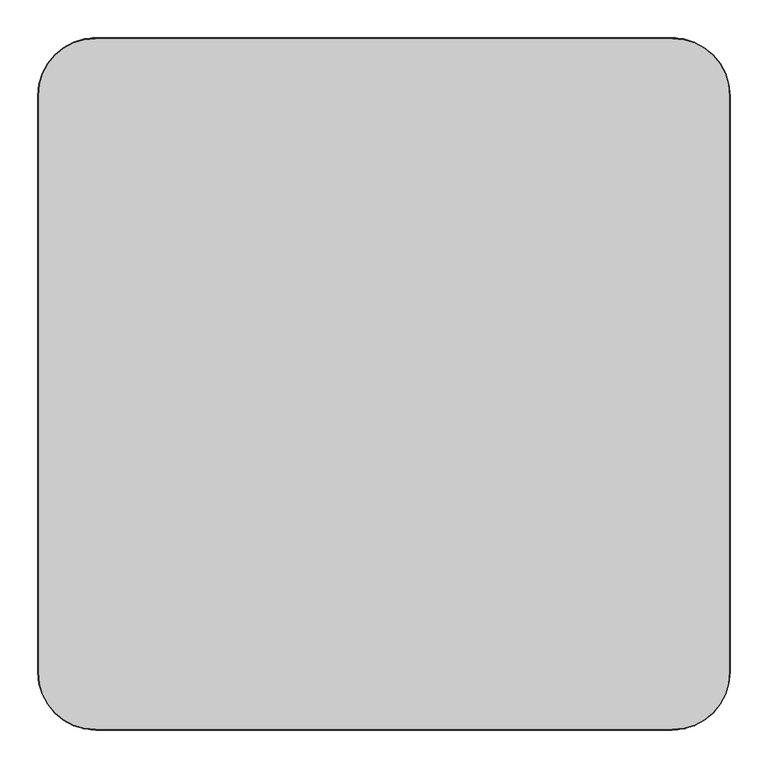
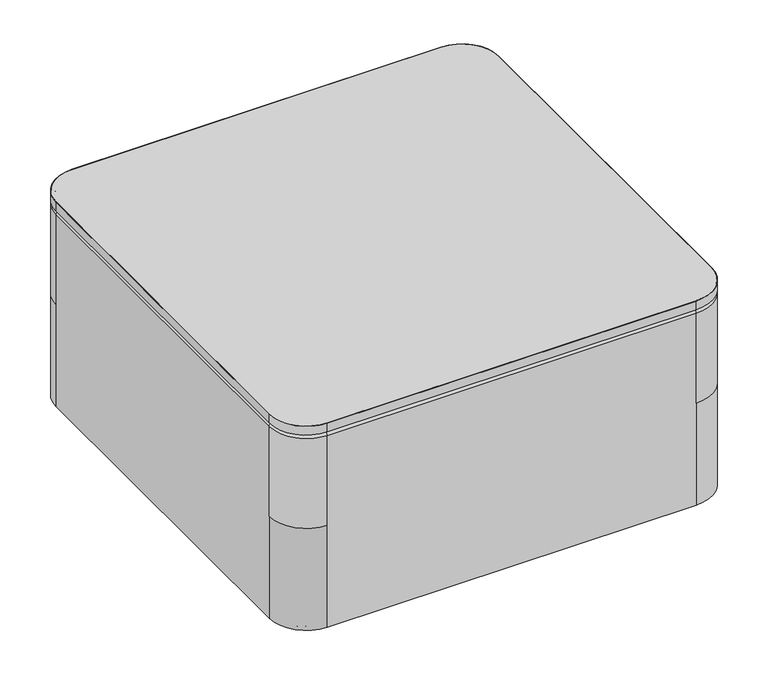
"""IFC4 building model written with IfcOpenShell, lengths in millimetres: furniture geometry, Indiana-Otty-Ottoman_Square_Table : 840-3618SOT."""

from ifc_helpers import new_model, si_unit, point, frame, frame_2d, origin, place, context, project, spatial, polyline, circle_curve, ellipse_curve, trimmed, segment, composite_curve, outline, extrude, source, transform, mapped, element, save
from ifc_brep_helpers import plane_surface, cylinder_surface, revolved_surface, advanced_brep


def furniture_90adf163(model_context):
    return source(origin(), model_context, "Body", "SolidModel", [
        extrude(outline(composite_curve([segment(trimmed(circle_curve(frame_2d((381.0, 381.0)), 75.2078125), [point((381.0, 456.2078125))], [point((456.2078125, 381.0))], False, "CARTESIAN"), True, "CONTINUOUS"), segment(polyline([(456.2078125, 381.0), (456.2078125, -381.0)]), True, "CONTINUOUS"), segment(trimmed(circle_curve(frame_2d((381.0, -381.0)), 75.2078125), [point((456.2078125, -381.0))], [point((381.0, -456.2078125))], False, "CARTESIAN"), True, "CONTINUOUS"), segment(polyline([(381.0, -456.2078125), (-381.0, -456.2078125)]), True, "CONTINUOUS"), segment(trimmed(circle_curve(frame_2d((-381.0, -381.0)), 75.2078125), [point((-381.0, -456.2078125))], [point((-456.2078125, -381.0))], False, "CARTESIAN"), True, "CONTINUOUS"), segment(polyline([(-456.2078125, -381.0), (-456.2078125, 381.0)]), True, "CONTINUOUS"), segment(trimmed(circle_curve(frame_2d((-381.0, 381.0)), 75.2078125), [point((-456.2078125, 381.0))], [point((-381.0, 456.2078125))], False, "CARTESIAN"), True, "CONTINUOUS"), segment(polyline([(-381.0, 456.2078125), (381.0, 456.2078125)]), True, "CONTINUOUS")], self_intersect=False)), frame((0.0, 0.0, 438.15), z_axis=(0.0, 0.0, 1.0), x_axis=(1.0, 0.0, 0.0)), (0.0, 0.0, 1.0), 19.05),
        extrude(outline(composite_curve([segment(polyline([(-457.2, -381.0), (-457.2, 381.0)]), True, "CONTINUOUS"), segment(trimmed(circle_curve(frame_2d((-381.0, 381.0)), 76.2), [point((-457.2, 381.0))], [point((-381.0, 457.2))], False, "CARTESIAN"), True, "CONTINUOUS"), segment(polyline([(-381.0, 457.2), (381.0, 457.2)]), True, "CONTINUOUS"), segment(trimmed(circle_curve(frame_2d((381.0, 381.0)), 76.2), [point((381.0, 457.2))], [point((457.2, 381.0))], False, "CARTESIAN"), True, "CONTINUOUS"), segment(polyline([(457.2, 381.0), (457.2, -381.0)]), True, "CONTINUOUS"), segment(trimmed(circle_curve(frame_2d((381.0, -381.0)), 76.2), [point((457.2, -381.0))], [point((381.0, -457.2))], False, "CARTESIAN"), True, "CONTINUOUS"), segment(polyline([(381.0, -457.2), (-381.0, -457.2)]), True, "CONTINUOUS"), segment(trimmed(circle_curve(frame_2d((-381.0, -381.0)), 76.2), [point((-381.0, -457.2))], [point((-457.2, -381.0))], False, "CARTESIAN"), True, "CONTINUOUS")], self_intersect=False), holes=[composite_curve([segment(polyline([(381.0, 456.2078125), (-381.0, 456.2078125)]), True, "CONTINUOUS"), segment(trimmed(circle_curve(frame_2d((-381.0, 381.0)), 75.2078125), [point((-381.0, 456.2078125))], [point((-456.2078125, 381.0))], True, "CARTESIAN"), True, "CONTINUOUS"), segment(polyline([(-456.2078125, 381.0), (-456.2078125, -381.0)]), True, "CONTINUOUS"), segment(trimmed(circle_curve(frame_2d((-381.0, -381.0)), 75.2078125), [point((-456.2078125, -381.0))], [point((-381.0, -456.2078125))], True, "CARTESIAN"), True, "CONTINUOUS"), segment(polyline([(-381.0, -456.2078125), (381.0, -456.2078125)]), True, "CONTINUOUS"), segment(trimmed(circle_curve(frame_2d((381.0, -381.0)), 75.2078125), [point((381.0, -456.2078125))], [point((456.2078125, -381.0))], True, "CARTESIAN"), True, "CONTINUOUS"), segment(polyline([(456.2078125, -381.0), (456.2078125, 381.0)]), True, "CONTINUOUS"), segment(trimmed(circle_curve(frame_2d((381.0, 381.0)), 75.2078125), [point((456.2078125, 381.0))], [point((381.0, 456.2078125))], True, "CARTESIAN"), True, "CONTINUOUS")], self_intersect=False)]), frame((0.0, 0.0, 438.15), z_axis=(0.0, 0.0, 1.0), x_axis=(1.0, 0.0, 0.0)), (0.0, 0.0, 1.0), 19.05),
        advanced_brep(
        [(0.0, -403.225, 19.8875), (0.0, -425.725, 19.8875), (0.0, -380.725, 19.8875), (0.0, -425.2765082, 4.2458827), (0.0, -381.1734918, 4.2458827), (0.0, -420.7913665, -0.1125), (0.0, -385.6586335, -0.1125), (0.0, -413.4926178, -0.1125), (0.0, -392.9573822, -0.1125), (0.0, -409.5981417, 3.9179615), (0.0, -396.8518583, 3.9179615), (0.0, -403.225, 3.9179615)],
        [
            (0, 1),
            (1, 2, circle_curve(frame((0.0, -403.225, 19.8875), z_axis=(0.0, 0.0, 1.0), x_axis=(0.0, -1.0, 0.0)), 22.5)),
            (2, 0),
            (2, 1, circle_curve(frame((0.0, -403.225, 19.8875), z_axis=(0.0, 0.0, 1.0), x_axis=(0.0, -1.0, 0.0)), 22.5)),
            (1, 3),
            (3, 4, circle_curve(frame((0.0, -403.225, 4.2458827), z_axis=(0.0, 0.0, 1.0), x_axis=(0.0, -1.0, 0.0)), 22.0515082)),
            (4, 2),
            (4, 3, circle_curve(frame((0.0, -403.225, 4.2458827), z_axis=(0.0, 0.0, 1.0), x_axis=(0.0, -1.0, 0.0)), 22.0515082)),
            (3, 5, circle_curve(frame((0.0, -420.7913665, 4.3744851), z_axis=(1.0, 0.0, 0.0), x_axis=(0.0, 1.0, 0.0)), 4.4869851)),
            (5, 6, circle_curve(frame((0.0, -403.225, -0.1125), z_axis=(0.0, 0.0, 1.0), x_axis=(0.0, -1.0, 0.0)), 17.5663665)),
            (6, 4, circle_curve(frame((0.0, -385.6586335, 4.3744851), z_axis=(1.0, 0.0, 0.0), x_axis=(0.0, -1.0, 0.0)), 4.4869851)),
            (6, 5, circle_curve(frame((0.0, -403.225, -0.1125), z_axis=(0.0, 0.0, 1.0), x_axis=(0.0, -1.0, 0.0)), 17.5663665)),
            (5, 7),
            (7, 8, circle_curve(frame((0.0, -403.225, -0.1125), z_axis=(0.0, 0.0, 1.0), x_axis=(0.0, -1.0, 0.0)), 10.2676178)),
            (8, 6),
            (8, 7, circle_curve(frame((0.0, -403.225, -0.1125), z_axis=(0.0, 0.0, 1.0), x_axis=(0.0, -1.0, 0.0)), 10.2676178)),
            (7, 9, circle_curve(frame((0.0, -413.4926178, 3.7842702), z_axis=(1.0, 0.0, 0.0), x_axis=(0.0, 1.0, 0.0)), 3.8967702)),
            (9, 10, circle_curve(frame((0.0, -403.225, 3.9179615), z_axis=(0.0, 0.0, 1.0), x_axis=(0.0, -1.0, 0.0)), 6.3731417)),
            (10, 8, circle_curve(frame((0.0, -392.9573822, 3.7842702), z_axis=(1.0, 0.0, 0.0), x_axis=(0.0, -1.0, 0.0)), 3.8967702)),
            (10, 9, circle_curve(frame((0.0, -403.225, 3.9179615), z_axis=(0.0, 0.0, 1.0), x_axis=(0.0, -1.0, 0.0)), 6.3731417)),
            (9, 11),
            (11, 10),
        ],
        [
            plane_surface(frame((0.0, -403.225, 19.8875), z_axis=(0.0, 0.0, 1.0), x_axis=(0.0, -1.0, 0.0))),
            revolved_surface(polyline([(0.0, -425.2765082, 4.2458827), (0.0, -425.725, 19.8875)]), (0.0, -403.225, 31.0803862), (0.0, 0.0, 1.0)),
            revolved_surface(trimmed(ellipse_curve(frame((0.0, -420.7913665, 4.3744851), z_axis=(-1.0, 0.0, 0.0), x_axis=(0.0, 1.0, 0.0)), 4.4869851, 4.4869851), [point((0.0, -420.7913665, -0.1125))], [point((0.0, -425.2765082, 4.2458827))], True, "CARTESIAN"), (0.0, -403.225, 31.0803862), (0.0, 0.0, 1.0)),
            plane_surface(frame((0.0, -403.225, -0.1125), z_axis=(0.0, 0.0, -1.0), x_axis=(0.0, -1.0, 0.0))),
            revolved_surface(trimmed(ellipse_curve(frame((0.0, -413.4926178, 3.7842702), z_axis=(-1.0, 0.0, 0.0), x_axis=(0.0, 1.0, 0.0)), 3.8967702, 3.8967702), [point((0.0, -409.5981417, 3.9179615))], [point((0.0, -413.4926178, -0.1125))], True, "CARTESIAN"), (0.0, -403.225, 31.0803862), (0.0, 0.0, 1.0)),
            plane_surface(frame((0.0, -403.225, 3.9179615), z_axis=(0.0, 0.0, -1.0), x_axis=(0.0, -1.0, 0.0))),
        ],
        [
            (0, [[1, 2, 3]]),
            (0, [[-3, 4, -1]]),
            (1, [[-2, 5, 6, 7]]),
            (1, [[-4, -7, 8, -5]]),
            (2, [[-6, 9, 10, 11]]),
            (2, [[-8, -11, 12, -9]]),
            (3, [[-10, 13, 14, 15]]),
            (3, [[-12, -15, 16, -13]]),
            (4, [[-14, 17, 18, 19]]),
            (4, [[-16, -19, 20, -17]]),
            (5, [[-18, 21, 22]]),
            (5, [[-20, -22, -21]]),
        ],
    ),
        advanced_brep(
        [(0.0, 403.225, 19.8875), (0.0, 380.725, 19.8875), (0.0, 425.725, 19.8875), (0.0, 381.1734918, 4.2458827), (0.0, 425.2765082, 4.2458827), (0.0, 385.6586335, -0.1125), (0.0, 420.7913665, -0.1125), (0.0, 392.9573822, -0.1125), (0.0, 413.4926178, -0.1125), (0.0, 396.8518583, 3.9179615), (0.0, 409.5981417, 3.9179615), (0.0, 403.225, 3.9179615)],
        [
            (0, 1),
            (1, 2, circle_curve(frame((0.0, 403.225, 19.8875), z_axis=(0.0, 0.0, 1.0), x_axis=(0.0, -1.0, 0.0)), 22.5)),
            (2, 0),
            (2, 1, circle_curve(frame((0.0, 403.225, 19.8875), z_axis=(0.0, 0.0, 1.0), x_axis=(0.0, -1.0, 0.0)), 22.5)),
            (1, 3),
            (3, 4, circle_curve(frame((0.0, 403.225, 4.2458827), z_axis=(0.0, 0.0, 1.0), x_axis=(0.0, -1.0, 0.0)), 22.0515082)),
            (4, 2),
            (4, 3, circle_curve(frame((0.0, 403.225, 4.2458827), z_axis=(0.0, 0.0, 1.0), x_axis=(0.0, -1.0, 0.0)), 22.0515082)),
            (3, 5, circle_curve(frame((0.0, 385.6586335, 4.3744851), z_axis=(1.0, 0.0, 0.0), x_axis=(0.0, 1.0, 0.0)), 4.4869851)),
            (5, 6, circle_curve(frame((0.0, 403.225, -0.1125), z_axis=(0.0, 0.0, 1.0), x_axis=(0.0, -1.0, 0.0)), 17.5663665)),
            (6, 4, circle_curve(frame((0.0, 420.7913665, 4.3744851), z_axis=(1.0, 0.0, 0.0), x_axis=(0.0, -1.0, 0.0)), 4.4869851)),
            (6, 5, circle_curve(frame((0.0, 403.225, -0.1125), z_axis=(0.0, 0.0, 1.0), x_axis=(0.0, -1.0, 0.0)), 17.5663665)),
            (5, 7),
            (7, 8, circle_curve(frame((0.0, 403.225, -0.1125), z_axis=(0.0, 0.0, 1.0), x_axis=(0.0, -1.0, 0.0)), 10.2676178)),
            (8, 6),
            (8, 7, circle_curve(frame((0.0, 403.225, -0.1125), z_axis=(0.0, 0.0, 1.0), x_axis=(0.0, -1.0, 0.0)), 10.2676178)),
            (7, 9, circle_curve(frame((0.0, 392.9573822, 3.7842702), z_axis=(1.0, 0.0, 0.0), x_axis=(0.0, 1.0, 0.0)), 3.8967702)),
            (9, 10, circle_curve(frame((0.0, 403.225, 3.9179615), z_axis=(0.0, 0.0, 1.0), x_axis=(0.0, -1.0, 0.0)), 6.3731417)),
            (10, 8, circle_curve(frame((0.0, 413.4926178, 3.7842702), z_axis=(1.0, 0.0, 0.0), x_axis=(0.0, -1.0, 0.0)), 3.8967702)),
            (10, 9, circle_curve(frame((0.0, 403.225, 3.9179615), z_axis=(0.0, 0.0, 1.0), x_axis=(0.0, -1.0, 0.0)), 6.3731417)),
            (9, 11),
            (11, 10),
        ],
        [
            plane_surface(frame((0.0, 403.225, 19.8875), z_axis=(0.0, 0.0, 1.0), x_axis=(0.0, -1.0, 0.0))),
            revolved_surface(polyline([(0.0, 381.1734918, 4.2458827), (0.0, 380.725, 19.8875)]), (0.0, 403.225, 31.0803862), (0.0, 0.0, 1.0)),
            revolved_surface(trimmed(ellipse_curve(frame((0.0, 385.6586335, 4.3744851), z_axis=(-1.0, 0.0, 0.0), x_axis=(0.0, 1.0, 0.0)), 4.4869851, 4.4869851), [point((0.0, 385.6586335, -0.1125))], [point((0.0, 381.1734918, 4.2458827))], True, "CARTESIAN"), (0.0, 403.225, 31.0803862), (0.0, 0.0, 1.0)),
            plane_surface(frame((0.0, 403.225, -0.1125), z_axis=(0.0, 0.0, -1.0), x_axis=(0.0, -1.0, 0.0))),
            revolved_surface(trimmed(ellipse_curve(frame((0.0, 392.9573822, 3.7842702), z_axis=(-1.0, 0.0, 0.0), x_axis=(0.0, 1.0, 0.0)), 3.8967702, 3.8967702), [point((0.0, 396.8518583, 3.9179615))], [point((0.0, 392.9573822, -0.1125))], True, "CARTESIAN"), (0.0, 403.225, 31.0803862), (0.0, 0.0, 1.0)),
            plane_surface(frame((0.0, 403.225, 3.9179615), z_axis=(0.0, 0.0, -1.0), x_axis=(0.0, -1.0, 0.0))),
        ],
        [
            (0, [[1, 2, 3]]),
            (0, [[-3, 4, -1]]),
            (1, [[-2, 5, 6, 7]]),
            (1, [[-4, -7, 8, -5]]),
            (2, [[-6, 9, 10, 11]]),
            (2, [[-8, -11, 12, -9]]),
            (3, [[-10, 13, 14, 15]]),
            (3, [[-12, -15, 16, -13]]),
            (4, [[-14, 17, 18, 19]]),
            (4, [[-16, -19, 20, -17]]),
            (5, [[-18, 21, 22]]),
            (5, [[-20, -22, -21]]),
        ],
    ),
        advanced_brep(
        [(403.225, -403.225, 19.8875), (403.225, -425.725, 19.8875), (403.225, -380.725, 19.8875), (403.225, -425.2765082, 4.2458827), (403.225, -381.1734918, 4.2458827), (403.225, -420.7913665, -0.1125), (403.225, -385.6586335, -0.1125), (403.225, -413.4926178, -0.1125), (403.225, -392.9573822, -0.1125), (403.225, -409.5981417, 3.9179615), (403.225, -396.8518583, 3.9179615), (403.225, -403.225, 3.9179615)],
        [
            (0, 1),
            (1, 2, circle_curve(frame((403.225, -403.225, 19.8875), z_axis=(0.0, 0.0, 1.0), x_axis=(0.0, -1.0, 0.0)), 22.5)),
            (2, 0),
            (2, 1, circle_curve(frame((403.225, -403.225, 19.8875), z_axis=(0.0, 0.0, 1.0), x_axis=(0.0, -1.0, 0.0)), 22.5)),
            (1, 3),
            (3, 4, circle_curve(frame((403.225, -403.225, 4.2458827), z_axis=(0.0, 0.0, 1.0), x_axis=(0.0, -1.0, 0.0)), 22.0515082)),
            (4, 2),
            (4, 3, circle_curve(frame((403.225, -403.225, 4.2458827), z_axis=(0.0, 0.0, 1.0), x_axis=(0.0, -1.0, 0.0)), 22.0515082)),
            (3, 5, circle_curve(frame((403.225, -420.7913665, 4.3744851), z_axis=(1.0, 0.0, 0.0), x_axis=(0.0, 1.0, 0.0)), 4.4869851)),
            (5, 6, circle_curve(frame((403.225, -403.225, -0.1125), z_axis=(0.0, 0.0, 1.0), x_axis=(0.0, -1.0, 0.0)), 17.5663665)),
            (6, 4, circle_curve(frame((403.225, -385.6586335, 4.3744851), z_axis=(1.0, 0.0, 0.0), x_axis=(0.0, -1.0, 0.0)), 4.4869851)),
            (6, 5, circle_curve(frame((403.225, -403.225, -0.1125), z_axis=(0.0, 0.0, 1.0), x_axis=(0.0, -1.0, 0.0)), 17.5663665)),
            (5, 7),
            (7, 8, circle_curve(frame((403.225, -403.225, -0.1125), z_axis=(0.0, 0.0, 1.0), x_axis=(0.0, -1.0, 0.0)), 10.2676178)),
            (8, 6),
            (8, 7, circle_curve(frame((403.225, -403.225, -0.1125), z_axis=(0.0, 0.0, 1.0), x_axis=(0.0, -1.0, 0.0)), 10.2676178)),
            (7, 9, circle_curve(frame((403.225, -413.4926178, 3.7842702), z_axis=(1.0, 0.0, 0.0), x_axis=(0.0, 1.0, 0.0)), 3.8967702)),
            (9, 10, circle_curve(frame((403.225, -403.225, 3.9179615), z_axis=(0.0, 0.0, 1.0), x_axis=(0.0, -1.0, 0.0)), 6.3731417)),
            (10, 8, circle_curve(frame((403.225, -392.9573822, 3.7842702), z_axis=(1.0, 0.0, 0.0), x_axis=(0.0, -1.0, 0.0)), 3.8967702)),
            (10, 9, circle_curve(frame((403.225, -403.225, 3.9179615), z_axis=(0.0, 0.0, 1.0), x_axis=(0.0, -1.0, 0.0)), 6.3731417)),
            (9, 11),
            (11, 10),
        ],
        [
            plane_surface(frame((403.225, -403.225, 19.8875), z_axis=(0.0, 0.0, 1.0), x_axis=(0.0, -1.0, 0.0))),
            revolved_surface(polyline([(403.225, -425.2765082, 4.2458827), (403.225, -425.725, 19.8875)]), (403.225, -403.225, 31.0803862), (0.0, 0.0, 1.0)),
            revolved_surface(trimmed(ellipse_curve(frame((403.225, -420.7913665, 4.3744851), z_axis=(-1.0, 0.0, 0.0), x_axis=(0.0, 1.0, 0.0)), 4.4869851, 4.4869851), [point((403.225, -420.7913665, -0.1125))], [point((403.225, -425.2765082, 4.2458827))], True, "CARTESIAN"), (403.225, -403.225, 31.0803862), (0.0, 0.0, 1.0)),
            plane_surface(frame((403.225, -403.225, -0.1125), z_axis=(0.0, 0.0, -1.0), x_axis=(0.0, -1.0, 0.0))),
            revolved_surface(trimmed(ellipse_curve(frame((403.225, -413.4926178, 3.7842702), z_axis=(-1.0, 0.0, 0.0), x_axis=(0.0, 1.0, 0.0)), 3.8967702, 3.8967702), [point((403.225, -409.5981417, 3.9179615))], [point((403.225, -413.4926178, -0.1125))], True, "CARTESIAN"), (403.225, -403.225, 31.0803862), (0.0, 0.0, 1.0)),
            plane_surface(frame((403.225, -403.225, 3.9179615), z_axis=(0.0, 0.0, -1.0), x_axis=(0.0, -1.0, 0.0))),
        ],
        [
            (0, [[1, 2, 3]]),
            (0, [[-3, 4, -1]]),
            (1, [[-2, 5, 6, 7]]),
            (1, [[-4, -7, 8, -5]]),
            (2, [[-6, 9, 10, 11]]),
            (2, [[-8, -11, 12, -9]]),
            (3, [[-10, 13, 14, 15]]),
            (3, [[-12, -15, 16, -13]]),
            (4, [[-14, 17, 18, 19]]),
            (4, [[-16, -19, 20, -17]]),
            (5, [[-18, 21, 22]]),
            (5, [[-20, -22, -21]]),
        ],
    ),
        advanced_brep(
        [(403.225, 403.225, 19.8875), (403.225, 380.725, 19.8875), (403.225, 425.725, 19.8875), (403.225, 381.1734918, 4.2458827), (403.225, 425.2765082, 4.2458827), (403.225, 385.6586335, -0.1125), (403.225, 420.7913665, -0.1125), (403.225, 392.9573822, -0.1125), (403.225, 413.4926178, -0.1125), (403.225, 396.8518583, 3.9179615), (403.225, 409.5981417, 3.9179615), (403.225, 403.225, 3.9179615)],
        [
            (0, 1),
            (1, 2, circle_curve(frame((403.225, 403.225, 19.8875), z_axis=(0.0, 0.0, 1.0), x_axis=(0.0, -1.0, 0.0)), 22.5)),
            (2, 0),
            (2, 1, circle_curve(frame((403.225, 403.225, 19.8875), z_axis=(0.0, 0.0, 1.0), x_axis=(0.0, -1.0, 0.0)), 22.5)),
            (1, 3),
            (3, 4, circle_curve(frame((403.225, 403.225, 4.2458827), z_axis=(0.0, 0.0, 1.0), x_axis=(0.0, -1.0, 0.0)), 22.0515082)),
            (4, 2),
            (4, 3, circle_curve(frame((403.225, 403.225, 4.2458827), z_axis=(0.0, 0.0, 1.0), x_axis=(0.0, -1.0, 0.0)), 22.0515082)),
            (3, 5, circle_curve(frame((403.225, 385.6586335, 4.3744851), z_axis=(1.0, 0.0, 0.0), x_axis=(0.0, 1.0, 0.0)), 4.4869851)),
            (5, 6, circle_curve(frame((403.225, 403.225, -0.1125), z_axis=(0.0, 0.0, 1.0), x_axis=(0.0, -1.0, 0.0)), 17.5663665)),
            (6, 4, circle_curve(frame((403.225, 420.7913665, 4.3744851), z_axis=(1.0, 0.0, 0.0), x_axis=(0.0, -1.0, 0.0)), 4.4869851)),
            (6, 5, circle_curve(frame((403.225, 403.225, -0.1125), z_axis=(0.0, 0.0, 1.0), x_axis=(0.0, -1.0, 0.0)), 17.5663665)),
            (5, 7),
            (7, 8, circle_curve(frame((403.225, 403.225, -0.1125), z_axis=(0.0, 0.0, 1.0), x_axis=(0.0, -1.0, 0.0)), 10.2676178)),
            (8, 6),
            (8, 7, circle_curve(frame((403.225, 403.225, -0.1125), z_axis=(0.0, 0.0, 1.0), x_axis=(0.0, -1.0, 0.0)), 10.2676178)),
            (7, 9, circle_curve(frame((403.225, 392.9573822, 3.7842702), z_axis=(1.0, 0.0, 0.0), x_axis=(0.0, 1.0, 0.0)), 3.8967702)),
            (9, 10, circle_curve(frame((403.225, 403.225, 3.9179615), z_axis=(0.0, 0.0, 1.0), x_axis=(0.0, -1.0, 0.0)), 6.3731417)),
            (10, 8, circle_curve(frame((403.225, 413.4926178, 3.7842702), z_axis=(1.0, 0.0, 0.0), x_axis=(0.0, -1.0, 0.0)), 3.8967702)),
            (10, 9, circle_curve(frame((403.225, 403.225, 3.9179615), z_axis=(0.0, 0.0, 1.0), x_axis=(0.0, -1.0, 0.0)), 6.3731417)),
            (9, 11),
            (11, 10),
        ],
        [
            plane_surface(frame((403.225, 403.225, 19.8875), z_axis=(0.0, 0.0, 1.0), x_axis=(0.0, -1.0, 0.0))),
            revolved_surface(polyline([(403.225, 381.1734918, 4.2458827), (403.225, 380.725, 19.8875)]), (403.225, 403.225, 31.0803862), (0.0, 0.0, 1.0)),
            revolved_surface(trimmed(ellipse_curve(frame((403.225, 385.6586335, 4.3744851), z_axis=(-1.0, 0.0, 0.0), x_axis=(0.0, 1.0, 0.0)), 4.4869851, 4.4869851), [point((403.225, 385.6586335, -0.1125))], [point((403.225, 381.1734918, 4.2458827))], True, "CARTESIAN"), (403.225, 403.225, 31.0803862), (0.0, 0.0, 1.0)),
            plane_surface(frame((403.225, 403.225, -0.1125), z_axis=(0.0, 0.0, -1.0), x_axis=(0.0, -1.0, 0.0))),
            revolved_surface(trimmed(ellipse_curve(frame((403.225, 392.9573822, 3.7842702), z_axis=(-1.0, 0.0, 0.0), x_axis=(0.0, 1.0, 0.0)), 3.8967702, 3.8967702), [point((403.225, 396.8518583, 3.9179615))], [point((403.225, 392.9573822, -0.1125))], True, "CARTESIAN"), (403.225, 403.225, 31.0803862), (0.0, 0.0, 1.0)),
            plane_surface(frame((403.225, 403.225, 3.9179615), z_axis=(0.0, 0.0, -1.0), x_axis=(0.0, -1.0, 0.0))),
        ],
        [
            (0, [[1, 2, 3]]),
            (0, [[-3, 4, -1]]),
            (1, [[-2, 5, 6, 7]]),
            (1, [[-4, -7, 8, -5]]),
            (2, [[-6, 9, 10, 11]]),
            (2, [[-8, -11, 12, -9]]),
            (3, [[-10, 13, 14, 15]]),
            (3, [[-12, -15, 16, -13]]),
            (4, [[-14, 17, 18, 19]]),
            (4, [[-16, -19, 20, -17]]),
            (5, [[-18, 21, 22]]),
            (5, [[-20, -22, -21]]),
        ],
    ),
        advanced_brep(
        [(-403.225, -403.225, 19.8875), (-403.225, -425.725, 19.8875), (-403.225, -380.725, 19.8875), (-403.225, -425.2765082, 4.2458827), (-403.225, -381.1734918, 4.2458827), (-403.225, -420.7913665, -0.1125), (-403.225, -385.6586335, -0.1125), (-403.225, -413.4926178, -0.1125), (-403.225, -392.9573822, -0.1125), (-403.225, -409.5981417, 3.9179615), (-403.225, -396.8518583, 3.9179615), (-403.225, -403.225, 3.9179615)],
        [
            (0, 1),
            (1, 2, circle_curve(frame((-403.225, -403.225, 19.8875), z_axis=(0.0, 0.0, 1.0), x_axis=(0.0, -1.0, 0.0)), 22.5)),
            (2, 0),
            (2, 1, circle_curve(frame((-403.225, -403.225, 19.8875), z_axis=(0.0, 0.0, 1.0), x_axis=(0.0, -1.0, 0.0)), 22.5)),
            (1, 3),
            (3, 4, circle_curve(frame((-403.225, -403.225, 4.2458827), z_axis=(0.0, 0.0, 1.0), x_axis=(0.0, -1.0, 0.0)), 22.0515082)),
            (4, 2),
            (4, 3, circle_curve(frame((-403.225, -403.225, 4.2458827), z_axis=(0.0, 0.0, 1.0), x_axis=(0.0, -1.0, 0.0)), 22.0515082)),
            (3, 5, circle_curve(frame((-403.225, -420.7913665, 4.3744851), z_axis=(1.0, 0.0, 0.0), x_axis=(0.0, 1.0, 0.0)), 4.4869851)),
            (5, 6, circle_curve(frame((-403.225, -403.225, -0.1125), z_axis=(0.0, 0.0, 1.0), x_axis=(0.0, -1.0, 0.0)), 17.5663665)),
            (6, 4, circle_curve(frame((-403.225, -385.6586335, 4.3744851), z_axis=(1.0, 0.0, 0.0), x_axis=(0.0, -1.0, 0.0)), 4.4869851)),
            (6, 5, circle_curve(frame((-403.225, -403.225, -0.1125), z_axis=(0.0, 0.0, 1.0), x_axis=(0.0, -1.0, 0.0)), 17.5663665)),
            (5, 7),
            (7, 8, circle_curve(frame((-403.225, -403.225, -0.1125), z_axis=(0.0, 0.0, 1.0), x_axis=(0.0, -1.0, 0.0)), 10.2676178)),
            (8, 6),
            (8, 7, circle_curve(frame((-403.225, -403.225, -0.1125), z_axis=(0.0, 0.0, 1.0), x_axis=(0.0, -1.0, 0.0)), 10.2676178)),
            (7, 9, circle_curve(frame((-403.225, -413.4926178, 3.7842702), z_axis=(1.0, 0.0, 0.0), x_axis=(0.0, 1.0, 0.0)), 3.8967702)),
            (9, 10, circle_curve(frame((-403.225, -403.225, 3.9179615), z_axis=(0.0, 0.0, 1.0), x_axis=(0.0, -1.0, 0.0)), 6.3731417)),
            (10, 8, circle_curve(frame((-403.225, -392.9573822, 3.7842702), z_axis=(1.0, 0.0, 0.0), x_axis=(0.0, -1.0, 0.0)), 3.8967702)),
            (10, 9, circle_curve(frame((-403.225, -403.225, 3.9179615), z_axis=(0.0, 0.0, 1.0), x_axis=(0.0, -1.0, 0.0)), 6.3731417)),
            (9, 11),
            (11, 10),
        ],
        [
            plane_surface(frame((-403.225, -403.225, 19.8875), z_axis=(0.0, 0.0, 1.0), x_axis=(0.0, -1.0, 0.0))),
            revolved_surface(polyline([(-403.225, -425.2765082, 4.2458827), (-403.225, -425.725, 19.8875)]), (-403.225, -403.225, 31.0803862), (0.0, 0.0, 1.0)),
            revolved_surface(trimmed(ellipse_curve(frame((-403.225, -420.7913665, 4.3744851), z_axis=(-1.0, 0.0, 0.0), x_axis=(0.0, 1.0, 0.0)), 4.4869851, 4.4869851), [point((-403.225, -420.7913665, -0.1125))], [point((-403.225, -425.2765082, 4.2458827))], True, "CARTESIAN"), (-403.225, -403.225, 31.0803862), (0.0, 0.0, 1.0)),
            plane_surface(frame((-403.225, -403.225, -0.1125), z_axis=(0.0, 0.0, -1.0), x_axis=(0.0, -1.0, 0.0))),
            revolved_surface(trimmed(ellipse_curve(frame((-403.225, -413.4926178, 3.7842702), z_axis=(-1.0, 0.0, 0.0), x_axis=(0.0, 1.0, 0.0)), 3.8967702, 3.8967702), [point((-403.225, -409.5981417, 3.9179615))], [point((-403.225, -413.4926178, -0.1125))], True, "CARTESIAN"), (-403.225, -403.225, 31.0803862), (0.0, 0.0, 1.0)),
            plane_surface(frame((-403.225, -403.225, 3.9179615), z_axis=(0.0, 0.0, -1.0), x_axis=(0.0, -1.0, 0.0))),
        ],
        [
            (0, [[1, 2, 3]]),
            (0, [[-3, 4, -1]]),
            (1, [[-2, 5, 6, 7]]),
            (1, [[-4, -7, 8, -5]]),
            (2, [[-6, 9, 10, 11]]),
            (2, [[-8, -11, 12, -9]]),
            (3, [[-10, 13, 14, 15]]),
            (3, [[-12, -15, 16, -13]]),
            (4, [[-14, 17, 18, 19]]),
            (4, [[-16, -19, 20, -17]]),
            (5, [[-18, 21, 22]]),
            (5, [[-20, -22, -21]]),
        ],
    ),
        advanced_brep(
        [(-403.225, 403.225, 19.8875), (-403.225, 380.725, 19.8875), (-403.225, 425.725, 19.8875), (-403.225, 381.1734918, 4.2458827), (-403.225, 425.2765082, 4.2458827), (-403.225, 385.6586335, -0.1125), (-403.225, 420.7913665, -0.1125), (-403.225, 392.9573822, -0.1125), (-403.225, 413.4926178, -0.1125), (-403.225, 396.8518583, 3.9179615), (-403.225, 409.5981417, 3.9179615), (-403.225, 403.225, 3.9179615)],
        [
            (0, 1),
            (1, 2, circle_curve(frame((-403.225, 403.225, 19.8875), z_axis=(0.0, 0.0, 1.0), x_axis=(0.0, -1.0, 0.0)), 22.5)),
            (2, 0),
            (2, 1, circle_curve(frame((-403.225, 403.225, 19.8875), z_axis=(0.0, 0.0, 1.0), x_axis=(0.0, -1.0, 0.0)), 22.5)),
            (1, 3),
            (3, 4, circle_curve(frame((-403.225, 403.225, 4.2458827), z_axis=(0.0, 0.0, 1.0), x_axis=(0.0, -1.0, 0.0)), 22.0515082)),
            (4, 2),
            (4, 3, circle_curve(frame((-403.225, 403.225, 4.2458827), z_axis=(0.0, 0.0, 1.0), x_axis=(0.0, -1.0, 0.0)), 22.0515082)),
            (3, 5, circle_curve(frame((-403.225, 385.6586335, 4.3744851), z_axis=(1.0, 0.0, 0.0), x_axis=(0.0, 1.0, 0.0)), 4.4869851)),
            (5, 6, circle_curve(frame((-403.225, 403.225, -0.1125), z_axis=(0.0, 0.0, 1.0), x_axis=(0.0, -1.0, 0.0)), 17.5663665)),
            (6, 4, circle_curve(frame((-403.225, 420.7913665, 4.3744851), z_axis=(1.0, 0.0, 0.0), x_axis=(0.0, -1.0, 0.0)), 4.4869851)),
            (6, 5, circle_curve(frame((-403.225, 403.225, -0.1125), z_axis=(0.0, 0.0, 1.0), x_axis=(0.0, -1.0, 0.0)), 17.5663665)),
            (5, 7),
            (7, 8, circle_curve(frame((-403.225, 403.225, -0.1125), z_axis=(0.0, 0.0, 1.0), x_axis=(0.0, -1.0, 0.0)), 10.2676178)),
            (8, 6),
            (8, 7, circle_curve(frame((-403.225, 403.225, -0.1125), z_axis=(0.0, 0.0, 1.0), x_axis=(0.0, -1.0, 0.0)), 10.2676178)),
            (7, 9, circle_curve(frame((-403.225, 392.9573822, 3.7842702), z_axis=(1.0, 0.0, 0.0), x_axis=(0.0, 1.0, 0.0)), 3.8967702)),
            (9, 10, circle_curve(frame((-403.225, 403.225, 3.9179615), z_axis=(0.0, 0.0, 1.0), x_axis=(0.0, -1.0, 0.0)), 6.3731417)),
            (10, 8, circle_curve(frame((-403.225, 413.4926178, 3.7842702), z_axis=(1.0, 0.0, 0.0), x_axis=(0.0, -1.0, 0.0)), 3.8967702)),
            (10, 9, circle_curve(frame((-403.225, 403.225, 3.9179615), z_axis=(0.0, 0.0, 1.0), x_axis=(0.0, -1.0, 0.0)), 6.3731417)),
            (9, 11),
            (11, 10),
        ],
        [
            plane_surface(frame((-403.225, 403.225, 19.8875), z_axis=(0.0, 0.0, 1.0), x_axis=(0.0, -1.0, 0.0))),
            revolved_surface(polyline([(-403.225, 381.1734918, 4.2458827), (-403.225, 380.725, 19.8875)]), (-403.225, 403.225, 31.0803862), (0.0, 0.0, 1.0)),
            revolved_surface(trimmed(ellipse_curve(frame((-403.225, 385.6586335, 4.3744851), z_axis=(-1.0, 0.0, 0.0), x_axis=(0.0, 1.0, 0.0)), 4.4869851, 4.4869851), [point((-403.225, 385.6586335, -0.1125))], [point((-403.225, 381.1734918, 4.2458827))], True, "CARTESIAN"), (-403.225, 403.225, 31.0803862), (0.0, 0.0, 1.0)),
            plane_surface(frame((-403.225, 403.225, -0.1125), z_axis=(0.0, 0.0, -1.0), x_axis=(0.0, -1.0, 0.0))),
            revolved_surface(trimmed(ellipse_curve(frame((-403.225, 392.9573822, 3.7842702), z_axis=(-1.0, 0.0, 0.0), x_axis=(0.0, 1.0, 0.0)), 3.8967702, 3.8967702), [point((-403.225, 396.8518583, 3.9179615))], [point((-403.225, 392.9573822, -0.1125))], True, "CARTESIAN"), (-403.225, 403.225, 31.0803862), (0.0, 0.0, 1.0)),
            plane_surface(frame((-403.225, 403.225, 3.9179615), z_axis=(0.0, 0.0, -1.0), x_axis=(0.0, -1.0, 0.0))),
        ],
        [
            (0, [[1, 2, 3]]),
            (0, [[-3, 4, -1]]),
            (1, [[-2, 5, 6, 7]]),
            (1, [[-4, -7, 8, -5]]),
            (2, [[-6, 9, 10, 11]]),
            (2, [[-8, -11, 12, -9]]),
            (3, [[-10, 13, 14, 15]]),
            (3, [[-12, -15, 16, -13]]),
            (4, [[-14, 17, 18, 19]]),
            (4, [[-16, -19, 20, -17]]),
            (5, [[-18, 21, 22]]),
            (5, [[-20, -22, -21]]),
        ],
    ),
        advanced_brep(
        [(381.0, 457.2, 234.35), (381.0, 457.2, 430.2043778), (457.2, 381.0, 430.2043778), (457.2, 381.0, 234.35), (457.2, -381.0, 430.2043778), (457.2, -381.0, 234.35), (457.2, -381.0, 11.5), (457.2, 381.0, 11.5), (381.0, -457.2, 430.2043778), (381.0, -457.2, 234.35), (-381.0, -457.2, 430.2043778), (-381.0, -457.2, 234.35), (-381.0, -457.2, 11.5), (381.0, -457.2, 11.5), (-457.2, -381.0, 430.2043778), (-457.2, -381.0, 234.35), (-457.2, 381.0, 430.2043778), (-457.2, 381.0, 234.35), (-457.2, 381.0, 11.5), (-457.2, -381.0, 11.5), (-381.0, 457.2, 430.2043778), (-381.0, 457.2, 234.35), (381.0, 449.2543778, 438.15), (-381.0, 449.2543778, 438.15), (-449.2543778, 381.0, 438.15), (-449.2543778, -381.0, 438.15), (-381.0, -449.2543778, 438.15), (381.0, -449.2543778, 438.15), (449.2543778, -381.0, 438.15), (449.2543778, 381.0, 438.15), (381.0, 457.2, 11.5), (-381.0, 457.2, 11.5), (-426.24375, -403.225, 11.5), (-380.20625, -403.225, 11.5), (-426.24375, 403.225, 11.5), (-380.20625, 403.225, 11.5), (380.20625, 403.225, 11.5), (426.24375, 403.225, 11.5), (380.20625, -403.225, 11.5), (426.24375, -403.225, 11.5), (-23.01875, 403.225, 11.5), (23.01875, 403.225, 11.5), (-23.01875, -403.225, 11.5), (23.01875, -403.225, 11.5), (-380.20625, -403.225, 19.834375), (-426.24375, -403.225, 19.834375), (-380.20625, 403.225, 19.834375), (-426.24375, 403.225, 19.834375), (380.20625, 403.225, 19.834375), (426.24375, 403.225, 19.834375), (380.20625, -403.225, 19.834375), (426.24375, -403.225, 19.834375), (-23.01875, 403.225, 19.834375), (23.01875, 403.225, 19.834375), (-23.01875, -403.225, 19.834375), (23.01875, -403.225, 19.834375)],
        [
            (0, 1),
            (1, 2, circle_curve(frame((381.0, 381.0, 430.2043778), z_axis=(0.0, 0.0, -1.0), x_axis=(0.0, 1.0, 0.0)), 76.2)),
            (2, 3),
            (3, 0, circle_curve(frame((381.0, 381.0, 234.35), z_axis=(0.0, 0.0, 1.0), x_axis=(0.0, 1.0, 0.0)), 76.2)),
            (2, 4),
            (4, 5),
            (5, 6),
            (6, 7),
            (7, 3),
            (4, 8, circle_curve(frame((381.0, -381.0, 430.2043778), z_axis=(0.0, 0.0, -1.0), x_axis=(1.0, 0.0, 0.0)), 76.2)),
            (8, 9),
            (9, 5, circle_curve(frame((381.0, -381.0, 234.35), z_axis=(0.0, 0.0, 1.0), x_axis=(1.0, 0.0, 0.0)), 76.2)),
            (8, 10),
            (10, 11),
            (11, 12),
            (12, 13),
            (13, 9),
            (10, 14, circle_curve(frame((-381.0, -381.0, 430.2043778), z_axis=(0.0, 0.0, -1.0), x_axis=(0.0, -1.0, 0.0)), 76.2)),
            (14, 15),
            (15, 11, circle_curve(frame((-381.0, -381.0, 234.35), z_axis=(0.0, 0.0, 1.0), x_axis=(0.0, -1.0, 0.0)), 76.2)),
            (14, 16),
            (16, 17),
            (17, 18),
            (18, 19),
            (19, 15),
            (16, 20, circle_curve(frame((-381.0, 381.0, 430.2043778), z_axis=(0.0, 0.0, -1.0), x_axis=(-1.0, 0.0, 0.0)), 76.2)),
            (20, 21),
            (21, 17, circle_curve(frame((-381.0, 381.0, 234.35), z_axis=(0.0, 0.0, 1.0), x_axis=(-1.0, 0.0, 0.0)), 76.2)),
            (22, 23),
            (23, 24, circle_curve(frame((-381.0, 381.0, 438.15), z_axis=(0.0, 0.0, 1.0), x_axis=(-1.0, 0.0, 0.0)), 68.2543778)),
            (24, 25),
            (25, 26, circle_curve(frame((-381.0, -381.0, 438.15), z_axis=(0.0, 0.0, 1.0), x_axis=(0.0, -1.0, 0.0)), 68.2543778)),
            (26, 27),
            (27, 28, circle_curve(frame((381.0, -381.0, 438.15), z_axis=(0.0, 0.0, 1.0), x_axis=(1.0, 0.0, 0.0)), 68.2543778)),
            (28, 29),
            (29, 22, circle_curve(frame((381.0, 381.0, 438.15), z_axis=(0.0, 0.0, 1.0), x_axis=(0.0, 1.0, 0.0)), 68.2543778)),
            (0, 30),
            (30, 31),
            (31, 21),
            (20, 1),
            (30, 7, circle_curve(frame((381.0, 381.0, 11.5), z_axis=(0.0, 0.0, -1.0), x_axis=(1.0, 0.0, 0.0)), 76.2)),
            (6, 13, circle_curve(frame((381.0, -381.0, 11.5), z_axis=(0.0, 0.0, -1.0), x_axis=(1.0, 0.0, 0.0)), 76.2)),
            (12, 19, circle_curve(frame((-381.0, -381.0, 11.5), z_axis=(0.0, 0.0, -1.0), x_axis=(1.0, 0.0, 0.0)), 76.2)),
            (18, 31, circle_curve(frame((-381.0, 381.0, 11.5), z_axis=(0.0, 0.0, -1.0), x_axis=(1.0, 0.0, 0.0)), 76.2)),
            (32, 33, circle_curve(frame((-403.225, -403.225, 11.5), z_axis=(0.0, 0.0, 1.0), x_axis=(-1.0, 0.0, 0.0)), 23.01875)),
            (33, 32, circle_curve(frame((-403.225, -403.225, 11.5), z_axis=(0.0, 0.0, 1.0), x_axis=(-1.0, 0.0, 0.0)), 23.01875)),
            (34, 35, circle_curve(frame((-403.225, 403.225, 11.5), z_axis=(0.0, 0.0, 1.0), x_axis=(-1.0, 0.0, 0.0)), 23.01875)),
            (35, 34, circle_curve(frame((-403.225, 403.225, 11.5), z_axis=(0.0, 0.0, 1.0), x_axis=(-1.0, 0.0, 0.0)), 23.01875)),
            (36, 37, circle_curve(frame((403.225, 403.225, 11.5), z_axis=(0.0, 0.0, 1.0), x_axis=(-1.0, 0.0, 0.0)), 23.01875)),
            (37, 36, circle_curve(frame((403.225, 403.225, 11.5), z_axis=(0.0, 0.0, 1.0), x_axis=(-1.0, 0.0, 0.0)), 23.01875)),
            (38, 39, circle_curve(frame((403.225, -403.225, 11.5), z_axis=(0.0, 0.0, 1.0), x_axis=(-1.0, 0.0, 0.0)), 23.01875)),
            (39, 38, circle_curve(frame((403.225, -403.225, 11.5), z_axis=(0.0, 0.0, 1.0), x_axis=(-1.0, 0.0, 0.0)), 23.01875)),
            (40, 41, circle_curve(frame((0.0, 403.225, 11.5), z_axis=(0.0, 0.0, 1.0), x_axis=(-1.0, 0.0, 0.0)), 23.01875)),
            (41, 40, circle_curve(frame((0.0, 403.225, 11.5), z_axis=(0.0, 0.0, 1.0), x_axis=(-1.0, 0.0, 0.0)), 23.01875)),
            (42, 43, circle_curve(frame((0.0, -403.225, 11.5), z_axis=(0.0, 0.0, 1.0), x_axis=(-1.0, 0.0, 0.0)), 23.01875)),
            (43, 42, circle_curve(frame((0.0, -403.225, 11.5), z_axis=(0.0, 0.0, 1.0), x_axis=(-1.0, 0.0, 0.0)), 23.01875)),
            (44, 45, circle_curve(frame((-403.225, -403.225, 19.834375), z_axis=(0.0, 0.0, -1.0), x_axis=(-1.0, 0.0, 0.0)), 23.01875)),
            (45, 44, circle_curve(frame((-403.225, -403.225, 19.834375), z_axis=(0.0, 0.0, -1.0), x_axis=(-1.0, 0.0, 0.0)), 23.01875)),
            (32, 45),
            (44, 33),
            (46, 47, circle_curve(frame((-403.225, 403.225, 19.834375), z_axis=(0.0, 0.0, -1.0), x_axis=(-1.0, 0.0, 0.0)), 23.01875)),
            (47, 46, circle_curve(frame((-403.225, 403.225, 19.834375), z_axis=(0.0, 0.0, -1.0), x_axis=(-1.0, 0.0, 0.0)), 23.01875)),
            (34, 47),
            (46, 35),
            (36, 48),
            (48, 49, circle_curve(frame((403.225, 403.225, 19.834375), z_axis=(0.0, 0.0, 1.0), x_axis=(-1.0, 0.0, 0.0)), 23.01875)),
            (49, 37),
            (49, 48, circle_curve(frame((403.225, 403.225, 19.834375), z_axis=(0.0, 0.0, 1.0), x_axis=(-1.0, 0.0, 0.0)), 23.01875)),
            (38, 50),
            (50, 51, circle_curve(frame((403.225, -403.225, 19.834375), z_axis=(0.0, 0.0, 1.0), x_axis=(-1.0, 0.0, 0.0)), 23.01875)),
            (51, 39),
            (51, 50, circle_curve(frame((403.225, -403.225, 19.834375), z_axis=(0.0, 0.0, 1.0), x_axis=(-1.0, 0.0, 0.0)), 23.01875)),
            (40, 52),
            (52, 53, circle_curve(frame((0.0, 403.225, 19.834375), z_axis=(0.0, 0.0, 1.0), x_axis=(-1.0, 0.0, 0.0)), 23.01875)),
            (53, 41),
            (53, 52, circle_curve(frame((0.0, 403.225, 19.834375), z_axis=(0.0, 0.0, 1.0), x_axis=(-1.0, 0.0, 0.0)), 23.01875)),
            (42, 54),
            (54, 55, circle_curve(frame((0.0, -403.225, 19.834375), z_axis=(0.0, 0.0, 1.0), x_axis=(-1.0, 0.0, 0.0)), 23.01875)),
            (55, 43),
            (55, 54, circle_curve(frame((0.0, -403.225, 19.834375), z_axis=(0.0, 0.0, 1.0), x_axis=(-1.0, 0.0, 0.0)), 23.01875)),
            (1, 22, circle_curve(frame((381.0, 449.2543778, 430.2043778), z_axis=(1.0, 0.0, 0.0), x_axis=(0.0, 1.0, 0.0)), 7.9456222)),
            (29, 2, circle_curve(frame((449.2543778, 381.0, 430.2043778), z_axis=(0.0, 1.0, 0.0), x_axis=(1.0, 0.0, 0.0)), 7.9456222)),
            (28, 4, circle_curve(frame((449.2543778, -381.0, 430.2043778), z_axis=(0.0, 1.0, 0.0), x_axis=(1.0, 0.0, 0.0)), 7.9456222)),
            (27, 8, circle_curve(frame((381.0, -449.2543778, 430.2043778), z_axis=(1.0, 0.0, 0.0), x_axis=(0.0, -1.0, 0.0)), 7.9456222)),
            (26, 10, circle_curve(frame((-381.0, -449.2543778, 430.2043778), z_axis=(1.0, 0.0, 0.0), x_axis=(0.0, -1.0, 0.0)), 7.9456222)),
            (25, 14, circle_curve(frame((-449.2543778, -381.0, 430.2043778), z_axis=(0.0, -1.0, 0.0), x_axis=(-1.0, 0.0, 0.0)), 7.9456222)),
            (24, 16, circle_curve(frame((-449.2543778, 381.0, 430.2043778), z_axis=(0.0, -1.0, 0.0), x_axis=(-1.0, 0.0, 0.0)), 7.9456222)),
            (23, 20, circle_curve(frame((-381.0, 449.2543778, 430.2043778), z_axis=(-1.0, 0.0, 0.0), x_axis=(0.0, 1.0, 0.0)), 7.9456222)),
        ],
        [
            cylinder_surface(frame((381.0, 381.0, 0.0), z_axis=(0.0, 0.0, -1.0), x_axis=(0.0, 1.0, 0.0)), 76.2),
            plane_surface(frame((457.2, 381.0, 430.2043778), z_axis=(1.0, 0.0, 0.0), x_axis=(0.0, -1.0, 0.0))),
            cylinder_surface(frame((381.0, -381.0, 0.0), z_axis=(0.0, 0.0, -1.0), x_axis=(1.0, 0.0, 0.0)), 76.2),
            plane_surface(frame((381.0, -457.2, 430.2043778), z_axis=(0.0, -1.0, 0.0), x_axis=(-1.0, 0.0, 0.0))),
            cylinder_surface(frame((-381.0, -381.0, 0.0), z_axis=(0.0, 0.0, -1.0), x_axis=(0.0, -1.0, 0.0)), 76.2),
            plane_surface(frame((-457.2, -381.0, 430.2043778), z_axis=(-1.0, 0.0, 0.0), x_axis=(0.0, 1.0, 0.0))),
            cylinder_surface(frame((-381.0, 381.0, 0.0), z_axis=(0.0, 0.0, -1.0), x_axis=(-1.0, 0.0, 0.0)), 76.2),
            plane_surface(frame((-381.0, 384.175, 438.15), z_axis=(0.0, 0.0, 1.0), x_axis=(1.0, 0.0, 0.0))),
            plane_surface(frame((-381.0, 457.2, 430.2043778), z_axis=(0.0, 1.0, 0.0), x_axis=(1.0, 0.0, 0.0))),
            plane_surface(frame((-381.0, 457.2, 11.5), z_axis=(0.0, 0.0, -1.0), x_axis=(1.0, 0.0, 0.0))),
            cylinder_surface(frame((-381.0, 381.0, 11.5), z_axis=(0.0, 0.0, 1.0), x_axis=(1.0, 0.0, 0.0)), 76.2),
            cylinder_surface(frame((-381.0, -381.0, 11.5), z_axis=(0.0, 0.0, 1.0), x_axis=(1.0, 0.0, 0.0)), 76.2),
            cylinder_surface(frame((381.0, -381.0, 11.5), z_axis=(0.0, 0.0, 1.0), x_axis=(1.0, 0.0, 0.0)), 76.2),
            cylinder_surface(frame((381.0, 381.0, 11.5), z_axis=(0.0, 0.0, 1.0), x_axis=(1.0, 0.0, 0.0)), 76.2),
            plane_surface(frame((-426.24375, -403.225, 19.834375), z_axis=(0.0, 0.0, -1.0), x_axis=(0.0, -1.0, 0.0))),
            revolved_surface(polyline([(-426.24375000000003, -403.225, 11.5), (-426.24375000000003, -403.225, 19.834375)]), (-403.225, -403.225, 19.834375), (0.0, 0.0, -1.0)),
            plane_surface(frame((-426.24375, 403.225, 19.834375), z_axis=(0.0, 0.0, -1.0), x_axis=(0.0, -1.0, 0.0))),
            revolved_surface(polyline([(-426.24375000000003, 403.225, 11.5), (-426.24375000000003, 403.225, 19.834375)]), (-403.225, 403.225, 19.834375), (0.0, 0.0, -1.0)),
            revolved_surface(polyline([(380.20625, 403.225, 11.5), (380.20625, 403.225, 19.834375)]), (403.225, 403.225, 19.834375), (0.0, 0.0, -1.0)),
            revolved_surface(polyline([(380.20625, -403.225, 11.5), (380.20625, -403.225, 19.834375)]), (403.225, -403.225, 19.834375), (0.0, 0.0, -1.0)),
            plane_surface(frame((380.20625, 403.225, 19.834375), z_axis=(0.0, 0.0, -1.0), x_axis=(0.0, -1.0, 0.0))),
            plane_surface(frame((380.20625, -403.225, 19.834375), z_axis=(0.0, 0.0, -1.0), x_axis=(0.0, -1.0, 0.0))),
            revolved_surface(polyline([(-23.01875, 403.225, 11.5), (-23.01875, 403.225, 19.834375)]), (0.0, 403.225, 19.834375), (0.0, 0.0, -1.0)),
            revolved_surface(polyline([(-23.01875, -403.225, 11.5), (-23.01875, -403.225, 19.834375)]), (0.0, -403.225, 19.834375), (0.0, 0.0, -1.0)),
            plane_surface(frame((-23.01875, -403.225, 19.834375), z_axis=(0.0, 0.0, -1.0), x_axis=(0.0, -1.0, 0.0))),
            plane_surface(frame((-23.01875, 403.225, 19.834375), z_axis=(0.0, 0.0, -1.0), x_axis=(0.0, -1.0, 0.0))),
            revolved_surface(trimmed(ellipse_curve(frame((381.0, 449.2543778, 430.2043778), z_axis=(-1.0, 0.0, 0.0), x_axis=(0.0, 1.0, 0.0)), 7.9456222, 7.9456222), [point((381.0, 449.2543778, 438.15))], [point((381.0, 457.2, 430.2043778))], True, "CARTESIAN"), (381.0, 381.0, 0.0), (0.0, 0.0, -1.0)),
            cylinder_surface(frame((449.2543778, 381.0, 430.2043778), z_axis=(0.0, 1.0, 0.0), x_axis=(1.0, 0.0, 0.0)), 7.9456222),
            revolved_surface(trimmed(ellipse_curve(frame((449.2543778, -381.0, 430.2043778), z_axis=(0.0, 1.0, 0.0), x_axis=(1.0, 0.0, 0.0)), 7.9456222, 7.9456222), [point((449.2543778, -381.0, 438.15))], [point((457.2, -381.0, 430.2043778))], True, "CARTESIAN"), (381.0, -381.0, 0.0), (0.0, 0.0, -1.0)),
            cylinder_surface(frame((381.0, -449.2543778, 430.2043778), z_axis=(1.0, 0.0, 0.0), x_axis=(0.0, -1.0, 0.0)), 7.9456222),
            revolved_surface(trimmed(ellipse_curve(frame((-381.0, -449.2543778, 430.2043778), z_axis=(1.0, 0.0, 0.0), x_axis=(0.0, -1.0, 0.0)), 7.9456222, 7.9456222), [point((-381.0, -449.2543778, 438.15))], [point((-381.0, -457.2, 430.2043778))], True, "CARTESIAN"), (-381.0, -381.0, 0.0), (0.0, 0.0, -1.0)),
            cylinder_surface(frame((-449.2543778, -381.0, 430.2043778), z_axis=(0.0, -1.0, 0.0), x_axis=(-1.0, 0.0, 0.0)), 7.9456222),
            revolved_surface(trimmed(ellipse_curve(frame((-449.2543778, 381.0, 430.2043778), z_axis=(0.0, -1.0, 0.0), x_axis=(-1.0, 0.0, 0.0)), 7.9456222, 7.9456222), [point((-449.2543778, 381.0, 438.15))], [point((-457.2, 381.0, 430.2043778))], True, "CARTESIAN"), (-381.0, 381.0, 0.0), (0.0, 0.0, -1.0)),
            cylinder_surface(frame((-381.0, 449.2543778, 430.2043778), z_axis=(-1.0, 0.0, 0.0), x_axis=(0.0, 1.0, 0.0)), 7.9456222),
        ],
        [
            (0, [[1, 2, 3, 4]]),
            (1, [[-3, 5, 6, 7, 8, 9]]),
            (2, [[-6, 10, 11, 12]]),
            (3, [[-11, 13, 14, 15, 16, 17]]),
            (4, [[-14, 18, 19, 20]]),
            (5, [[-19, 21, 22, 23, 24, 25]]),
            (6, [[-22, 26, 27, 28]]),
            (7, [[29, 30, 31, 32, 33, 34, 35, 36]]),
            (8, [[-1, 37, 38, 39, -27, 40]]),
            (9, [[-38, 41, -8, 42, -16, 43, -24, 44], [45, 46], [47, 48], [49, 50], [51, 52], [53, 54], [55, 56]]),
            (10, [[-44, -23, -28, -39]]),
            (11, [[-43, -15, -20, -25]]),
            (12, [[-42, -7, -12, -17]]),
            (13, [[-41, -37, -4, -9]]),
            (14, [[57, 58]]),
            (15, [[-45, 59, -57, 60]]),
            (15, [[-46, -60, -58, -59]]),
            (16, [[61, 62]]),
            (17, [[-47, 63, -61, 64]]),
            (17, [[-48, -64, -62, -63]]),
            (18, [[-49, 65, 66, 67]]),
            (18, [[-50, -67, 68, -65]]),
            (19, [[-51, 69, 70, 71]]),
            (19, [[-52, -71, 72, -69]]),
            (20, [[-66, -68]]),
            (21, [[-70, -72]]),
            (22, [[-53, 73, 74, 75]]),
            (22, [[-54, -75, 76, -73]]),
            (23, [[-55, 77, 78, 79]]),
            (23, [[-56, -79, 80, -77]]),
            (24, [[-78, -80]]),
            (25, [[-74, -76]]),
            (26, [[-2, 81, -36, 82]]),
            (27, [[-5, -82, -35, 83]]),
            (28, [[-10, -83, -34, 84]]),
            (29, [[-13, -84, -33, 85]]),
            (30, [[-18, -85, -32, 86]]),
            (31, [[-21, -86, -31, 87]]),
            (32, [[-26, -87, -30, 88]]),
            (33, [[-29, -81, -40, -88]]),
        ],
    ),
    ])


if __name__ == "__main__":
    model = new_model("IFC4")
    model_context = context("Model", 3, world=origin())
    ifc_project = project(units=[si_unit("LENGTHUNIT", "METRE", prefix="MILLI")], contexts=[model_context])
    site = spatial("IfcSite", under=ifc_project)
    building = spatial("IfcBuilding", under=site)
    placement = place(None, origin())
    furniture_shape = furniture_90adf163(model_context)
    element("IfcFurniture", 1, ObjectType="Indiana-Otty-Ottoman_Square_Table : 840-3618SOT", at=placement, inside=building, context=model_context, shape_type="MappedRepresentation", body=[
        mapped(furniture_shape, transform((0.0, 0.0, 0.0), x_axis=(1.0, 0.0, 0.0), y_axis=(0.0, 1.0, 0.0), z_axis=(0.0, 0.0, 1.0))),
    ])
    save(model, "model.ifc")
